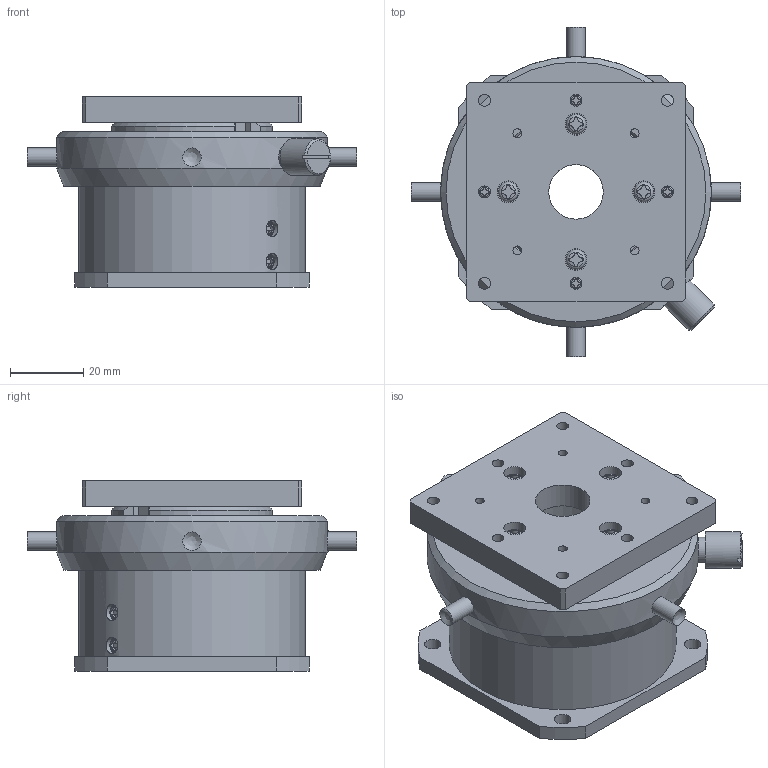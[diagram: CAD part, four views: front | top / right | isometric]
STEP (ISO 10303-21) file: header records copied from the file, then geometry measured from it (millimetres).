
FILE_DESCRIPTION((''),'2;1');
FILE_NAME('T:\Public\7_3次元データ\1図面ﾃﾞｰﾀ\2_OpticalHard\01_国内製品\3_Bases\HCS\HCS-H\HCS-H.stp','2009-08-10T09:43:54',('okegawa'),(''),'Autodesk Inventor 2008','Autodesk Inventor 2008','');
FILE_SCHEMA(('AUTOMOTIVE_DESIGN { 1 0 10303 214 1 1 1 1 }'));
Length unit declared in the file: millimetre
Products named in the file (3): HCS-H-C1-S04; HCS-H-C1-S01; HCS-H-C1-S03
Assembly tree (2 placements, depth 2):
  HCS-H-C1-S04
    HCS-H-C1-S01
    HCS-H-C1-S03
Bounding box: 90.1 x 90.1 x 52 mm (x, y, z)
Volume: 57756.4 mm3; surface area: 53867.1 mm2
Topology: 9 solids, 18 shells, 411 faces, 983 edges, 655 vertices
Faces by surface type: plane 170, cylinder 94, bspline 83, cone 40, sphere 12, torus 12
Full cylindrical faces by diameter (mm): 2 x4, 2.6 x4, 3 x4, 3.2 x4, 4 x6, 5 x4, 7 x1, 10 x1, 27 x1, 44 x1, 45 x1, 50 x1, 54 x1, 62 x1, 63.5 x1, 74 x1
Entity records: 13416 total; most frequent: CARTESIAN_POINT 4832, DIRECTION 1714, ORIENTED_EDGE 1530, EDGE_CURVE 765, AXIS2_PLACEMENT_3D 707, EDGE_LOOP 690, VERTEX_POINT 583, FACE_OUTER_BOUND 411
